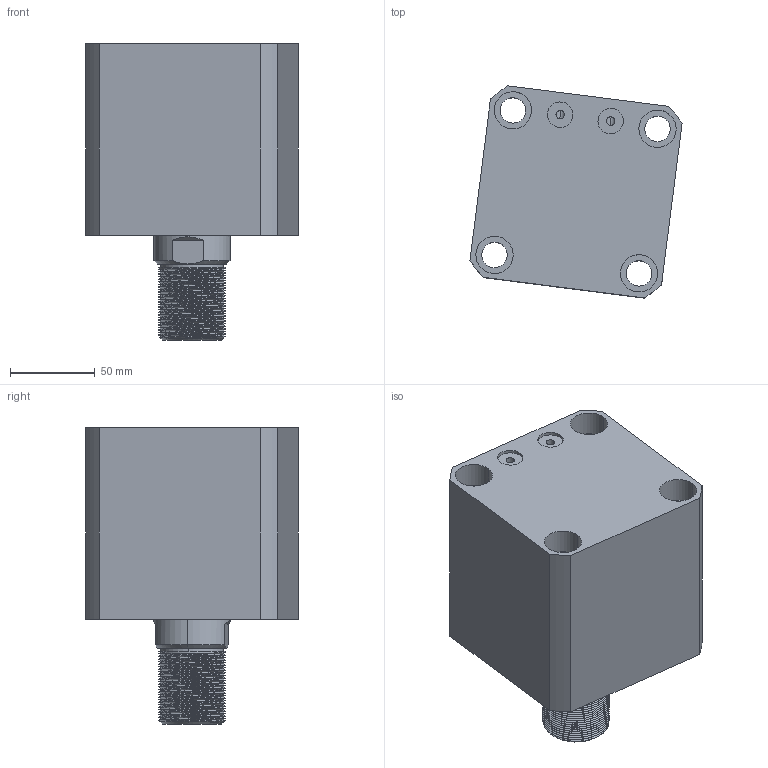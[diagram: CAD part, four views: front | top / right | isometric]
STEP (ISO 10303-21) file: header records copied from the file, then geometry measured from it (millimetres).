
FILE_DESCRIPTION (( 'STEP AP214' ), '1' );
FILE_NAME ('chtb-sdmb80x35w_asm.STEP', '2018-05-26T01:51:02', ( 'Windows' ), ( 'Microsoft' ), 'SwSTEP 2.0', 'SolidWorks 2015', '' );
FILE_SCHEMA (( 'AUTOMOTIVE_DESIGN' ));
Length unit declared in the file: millimetre
Products named in the file (4): CHTB-SD80QG; chtb-sdmb80x35w_asm; CHTB-SDMB80X35NBT; CHTB-SD80X35WHSG
Assembly tree (3 placements, depth 2):
  chtb-sdmb80x35w_asm
    CHTB-SD80QG
    CHTB-SD80X35WHSG
    CHTB-SDMB80X35NBT
Bounding box: 125.23 x 125.23 x 175 mm (x, y, z)
Volume: 1284942.3 mm3; surface area: 192468.2 mm2
Topology: 3 solids, 3 shells, 251 faces, 695 edges, 466 vertices
Faces by surface type: cylinder 163, plane 38, torus 18, bspline 16, cone 16
Entity records: 20297 total; most frequent: CARTESIAN_POINT 14321, ORIENTED_EDGE 1382, DIRECTION 1068, EDGE_CURVE 691, VERTEX_POINT 466, AXIS2_PLACEMENT_3D 433, EDGE_LOOP 289, ADVANCED_FACE 251
